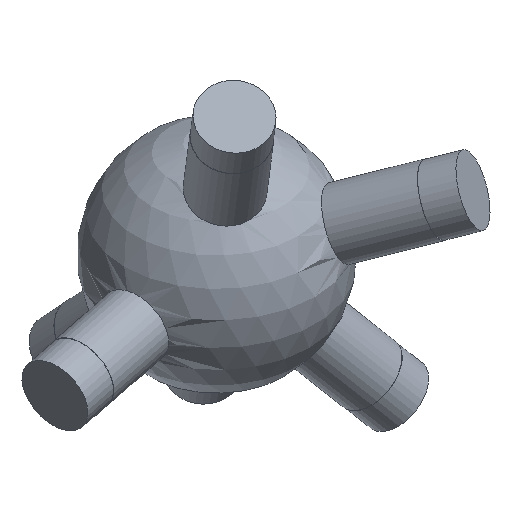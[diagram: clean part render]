
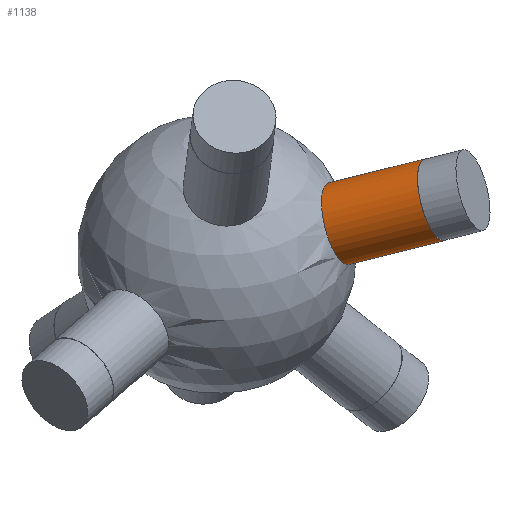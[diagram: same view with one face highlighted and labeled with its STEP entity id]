
A CAD part, isometric view. The second image highlights one B-rep face of the part: STEP entity #1138.
In plain terms, the highlighted cylindrical face has radius 6 mm (diameter 12 mm), a full revolution.
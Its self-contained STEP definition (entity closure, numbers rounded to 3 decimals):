
#37 = SPHERICAL_SURFACE('',#38,20.);
#38 = AXIS2_PLACEMENT_3D('',#39,#40,#41);
#39 = CARTESIAN_POINT('',(0.,0.,0.));
#40 = DIRECTION('',(0.,0.,1.));
#41 = DIRECTION('',(1.,0.,-0.));
#642 = EDGE_CURVE('',#643,#643,#645,.T.);
#643 = VERTEX_POINT('',#644);
#644 = CARTESIAN_POINT('',(5.47,-17.801,7.293
    ));
#645 = SURFACE_CURVE('',#646,(#651,#713),.PCURVE_S1.);
#646 = CIRCLE('',#647,6.);
#647 = AXIS2_PLACEMENT_3D('',#648,#649,#650);
#648 = CARTESIAN_POINT('',(10.332,-14.285,
    7.293));
#649 = DIRECTION('',(0.542,-0.749,0.382));
#650 = DIRECTION('',(0.81,0.586,0.)
  );
#651 = PCURVE('',#37,#652);
#652 = DEFINITIONAL_REPRESENTATION('',(#653),#712);
#653 = B_SPLINE_CURVE_WITH_KNOTS('',8,(#654,#655,#656,#657,#658,#659,
    #660,#661,#662,#663,#664,#665,#666,#667,#668,#669,#670,#671,#672,
    #673,#674,#675,#676,#677,#678,#679,#680,#681,#682,#683,#684,#685,
    #686,#687,#688,#689,#690,#691,#692,#693,#694,#695,#696,#697,#698,
    #699,#700,#701,#702,#703,#704,#705,#706,#707,#708,#709,#710,#711),
  .UNSPECIFIED.,.T.,.F.,(9,7,7,7,7,7,7,7,9),(3.142,
    3.927,4.614,5.817,6.719,
    7.395,7.903,8.664,9.425),
  .UNSPECIFIED.);
#654 = CARTESIAN_POINT('',(5.011,0.373));
#655 = CARTESIAN_POINT('',(5.014,0.344));
#656 = CARTESIAN_POINT('',(5.022,0.315));
#657 = CARTESIAN_POINT('',(5.032,0.287));
#658 = CARTESIAN_POINT('',(5.045,0.26));
#659 = CARTESIAN_POINT('',(5.061,0.235));
#660 = CARTESIAN_POINT('',(5.079,0.211));
#661 = CARTESIAN_POINT('',(5.099,0.189));
#662 = CARTESIAN_POINT('',(5.141,0.152));
#663 = CARTESIAN_POINT('',(5.162,0.137));
#664 = CARTESIAN_POINT('',(5.185,0.124));
#665 = CARTESIAN_POINT('',(5.208,0.112));
#666 = CARTESIAN_POINT('',(5.233,0.103));
#667 = CARTESIAN_POINT('',(5.258,0.096));
#668 = CARTESIAN_POINT('',(5.283,0.091));
#669 = CARTESIAN_POINT('',(5.354,0.085));
#670 = CARTESIAN_POINT('',(5.4,0.088));
#671 = CARTESIAN_POINT('',(5.445,0.098));
#672 = CARTESIAN_POINT('',(5.488,0.116));
#673 = CARTESIAN_POINT('',(5.528,0.14));
#674 = CARTESIAN_POINT('',(5.563,0.169));
#675 = CARTESIAN_POINT('',(5.594,0.204));
#676 = CARTESIAN_POINT('',(5.637,0.271));
#677 = CARTESIAN_POINT('',(5.652,0.302));
#678 = CARTESIAN_POINT('',(5.663,0.334));
#679 = CARTESIAN_POINT('',(5.67,0.368));
#680 = CARTESIAN_POINT('',(5.673,0.402));
#681 = CARTESIAN_POINT('',(5.672,0.437));
#682 = CARTESIAN_POINT('',(5.665,0.47));
#683 = CARTESIAN_POINT('',(5.646,0.527));
#684 = CARTESIAN_POINT('',(5.634,0.55));
#685 = CARTESIAN_POINT('',(5.62,0.573));
#686 = CARTESIAN_POINT('',(5.603,0.594));
#687 = CARTESIAN_POINT('',(5.583,0.614));
#688 = CARTESIAN_POINT('',(5.56,0.631));
#689 = CARTESIAN_POINT('',(5.535,0.647));
#690 = CARTESIAN_POINT('',(5.487,0.67));
#691 = CARTESIAN_POINT('',(5.465,0.678));
#692 = CARTESIAN_POINT('',(5.442,0.685));
#693 = CARTESIAN_POINT('',(5.418,0.691));
#694 = CARTESIAN_POINT('',(5.394,0.695));
#695 = CARTESIAN_POINT('',(5.369,0.697));
#696 = CARTESIAN_POINT('',(5.344,0.698));
#697 = CARTESIAN_POINT('',(5.282,0.695));
#698 = CARTESIAN_POINT('',(5.246,0.689));
#699 = CARTESIAN_POINT('',(5.21,0.68));
#700 = CARTESIAN_POINT('',(5.177,0.668));
#701 = CARTESIAN_POINT('',(5.146,0.652));
#702 = CARTESIAN_POINT('',(5.118,0.633));
#703 = CARTESIAN_POINT('',(5.095,0.612));
#704 = CARTESIAN_POINT('',(5.054,0.566));
#705 = CARTESIAN_POINT('',(5.037,0.541));
#706 = CARTESIAN_POINT('',(5.024,0.515));
#707 = CARTESIAN_POINT('',(5.014,0.487));
#708 = CARTESIAN_POINT('',(5.009,0.459));
#709 = CARTESIAN_POINT('',(5.006,0.43));
#710 = CARTESIAN_POINT('',(5.007,0.402));
#711 = CARTESIAN_POINT('',(5.011,0.373));
#712 = ( GEOMETRIC_REPRESENTATION_CONTEXT(2) 
PARAMETRIC_REPRESENTATION_CONTEXT() REPRESENTATION_CONTEXT('2D SPACE',''
  ) );
#713 = PCURVE('',#714,#719);
#714 = CYLINDRICAL_SURFACE('',#715,6.);
#715 = AXIS2_PLACEMENT_3D('',#716,#717,#718);
#716 = CARTESIAN_POINT('',(0.,0.,0.));
#717 = DIRECTION('',(0.542,-0.749,0.382));
#718 = DIRECTION('',(-0.81,-0.586,0.)
  );
#719 = DEFINITIONAL_REPRESENTATION('',(#720),#724);
#720 = LINE('',#721,#722);
#721 = CARTESIAN_POINT('',(-3.142,19.079));
#722 = VECTOR('',#723,1.);
#723 = DIRECTION('',(1.,0.));
#724 = ( GEOMETRIC_REPRESENTATION_CONTEXT(2) 
PARAMETRIC_REPRESENTATION_CONTEXT() REPRESENTATION_CONTEXT('2D SPACE',''
  ) );
#1138 = ADVANCED_FACE('',(#1139),#714,.T.);
#1139 = FACE_BOUND('',#1140,.T.);
#1140 = EDGE_LOOP('',(#1141,#1164,#1191,#1192));
#1141 = ORIENTED_EDGE('',*,*,#1142,.T.);
#1142 = EDGE_CURVE('',#643,#1143,#1145,.T.);
#1143 = VERTEX_POINT('',#1144);
#1144 = CARTESIAN_POINT('',(13.614,-29.062,
    13.041));
#1145 = SEAM_CURVE('',#1146,(#1150,#1157),.PCURVE_S1.);
#1146 = LINE('',#1147,#1148);
#1147 = CARTESIAN_POINT('',(-4.862,-3.516,
    0.));
#1148 = VECTOR('',#1149,1.);
#1149 = DIRECTION('',(0.542,-0.749,0.382));
#1150 = PCURVE('',#714,#1151);
#1151 = DEFINITIONAL_REPRESENTATION('',(#1152),#1156);
#1152 = LINE('',#1153,#1154);
#1153 = CARTESIAN_POINT('',(6.283,-0.));
#1154 = VECTOR('',#1155,1.);
#1155 = DIRECTION('',(0.,1.));
#1156 = ( GEOMETRIC_REPRESENTATION_CONTEXT(2) 
PARAMETRIC_REPRESENTATION_CONTEXT() REPRESENTATION_CONTEXT('2D SPACE',''
  ) );
#1157 = PCURVE('',#714,#1158);
#1158 = DEFINITIONAL_REPRESENTATION('',(#1159),#1163);
#1159 = LINE('',#1160,#1161);
#1160 = CARTESIAN_POINT('',(0.,-0.));
#1161 = VECTOR('',#1162,1.);
#1162 = DIRECTION('',(0.,1.));
#1163 = ( GEOMETRIC_REPRESENTATION_CONTEXT(2) 
PARAMETRIC_REPRESENTATION_CONTEXT() REPRESENTATION_CONTEXT('2D SPACE',''
  ) );
#1164 = ORIENTED_EDGE('',*,*,#1165,.F.);
#1165 = EDGE_CURVE('',#1143,#1143,#1166,.T.);
#1166 = SURFACE_CURVE('',#1167,(#1172,#1179),.PCURVE_S1.);
#1167 = CIRCLE('',#1168,6.);
#1168 = AXIS2_PLACEMENT_3D('',#1169,#1170,#1171);
#1169 = CARTESIAN_POINT('',(18.476,-25.545,
    13.041));
#1170 = DIRECTION('',(0.542,-0.749,0.382));
#1171 = DIRECTION('',(-0.81,-0.586,0.
    ));
#1172 = PCURVE('',#714,#1173);
#1173 = DEFINITIONAL_REPRESENTATION('',(#1174),#1178);
#1174 = LINE('',#1175,#1176);
#1175 = CARTESIAN_POINT('',(0.,34.117));
#1176 = VECTOR('',#1177,1.);
#1177 = DIRECTION('',(1.,0.));
#1178 = ( GEOMETRIC_REPRESENTATION_CONTEXT(2) 
PARAMETRIC_REPRESENTATION_CONTEXT() REPRESENTATION_CONTEXT('2D SPACE',''
  ) );
#1179 = PCURVE('',#1180,#1185);
#1180 = PLANE('',#1181);
#1181 = AXIS2_PLACEMENT_3D('',#1182,#1183,#1184);
#1182 = CARTESIAN_POINT('',(18.476,-25.545,
    13.041));
#1183 = DIRECTION('',(0.542,-0.749,0.382));
#1184 = DIRECTION('',(-0.81,-0.586,0.
    ));
#1185 = DEFINITIONAL_REPRESENTATION('',(#1186),#1190);
#1186 = CIRCLE('',#1187,6.);
#1187 = AXIS2_PLACEMENT_2D('',#1188,#1189);
#1188 = CARTESIAN_POINT('',(0.,0.));
#1189 = DIRECTION('',(1.,0.));
#1190 = ( GEOMETRIC_REPRESENTATION_CONTEXT(2) 
PARAMETRIC_REPRESENTATION_CONTEXT() REPRESENTATION_CONTEXT('2D SPACE',''
  ) );
#1191 = ORIENTED_EDGE('',*,*,#1142,.F.);
#1192 = ORIENTED_EDGE('',*,*,#642,.T.);
